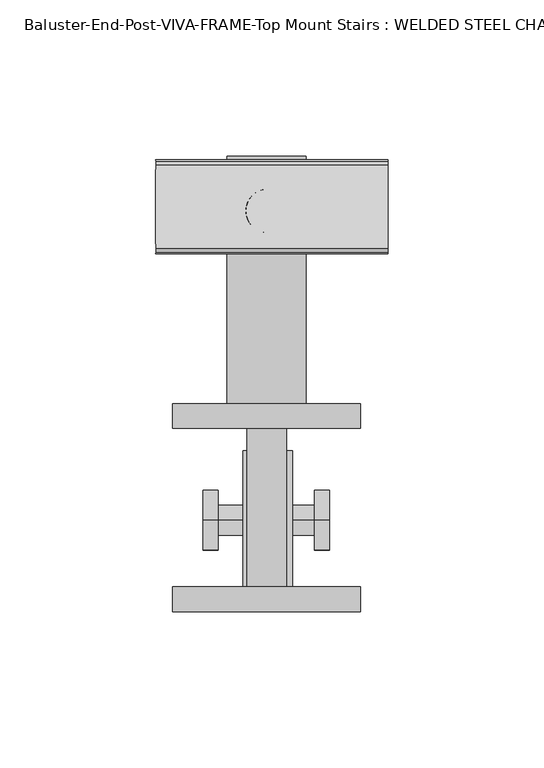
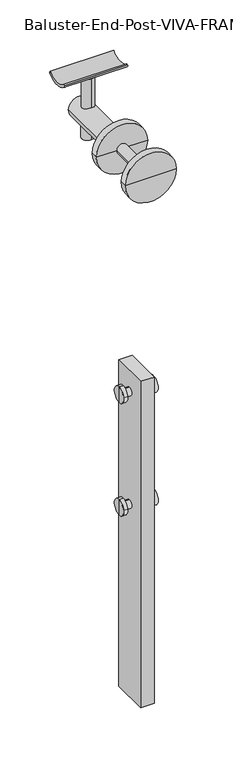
"""IFC4 building model written with IfcOpenShell, lengths in millimetres: proxy geometry, Baluster-End-Post-VIVA-FRAME-Top Mount Stairs : WELDED STEEL CHANNEL_TOP MOUNT FRAME_STAIR."""

from ifc_helpers import new_model, si_unit, point, frame, frame_2d, origin, place, context, project, spatial, polyline, circle_curve, trimmed, segment, composite_curve, outline, extrude, source, transform, mapped, element, save
from ifc_brep_helpers import plane_surface, cylinder_surface, advanced_brep


def baluster_end_post_viva_frame_top_mount_stairs_welded_steel_a77319bc(model_context):
    return source(origin(), model_context, "Body", "SolidModel", [
        advanced_brep(
        [(-30.4813346, -121.9403, -73.6790445), (-6.6688346, -121.9403, -73.6790445), (6.0311654, -121.9403, -73.6790445), (29.8436654, -121.9403, -73.6790445), (-30.4813346, -129.8778, -73.6790445), (29.8436654, -129.8778, -73.6790445), (-30.4813346, -63.2028, -73.6790445), (-13.0188346, -63.2028, -73.6790445), (12.3811654, -63.2028, -73.6790445), (29.8436654, -63.2028, -73.6790445), (-30.4813346, -71.1403, -73.6790445), (29.8436654, -71.1403, -73.6790445), (-0.3188346, -129.8778, -73.6790445), (-13.0188346, 16.1722, -73.6790445), (-0.3188346, 16.1722, -73.6790445), (12.3811654, 16.1722, -73.6790445), (-6.6688346, -71.1403, -73.6790445), (6.0311654, -71.1403, -73.6790445)],
        [
            (0, 1),
            (1, 2, circle_curve(frame((-0.3188346, -121.9403, -73.6790445), z_axis=(0.0, -1.0, 0.0), x_axis=(1.0, 0.0, 0.0)), 6.35)),
            (2, 3),
            (3, 0, circle_curve(frame((-0.3188346, -121.9403, -73.6790445), z_axis=(0.0, 1.0, 0.0), x_axis=(1.0, 0.0, 0.0)), 30.1625)),
            (4, 0),
            (3, 5),
            (5, 4, circle_curve(frame((-0.3188346, -129.8778, -73.6790445), z_axis=(0.0, 1.0, 0.0), x_axis=(1.0, 0.0, 0.0)), 30.1625)),
            (6, 7),
            (7, 8, circle_curve(frame((-0.3188346, -63.2028, -73.6790445), z_axis=(0.0, -1.0, 0.0), x_axis=(1.0, 0.0, 0.0)), 12.7)),
            (8, 9),
            (9, 6, circle_curve(frame((-0.3188346, -63.2028, -73.6790445), z_axis=(0.0, 1.0, 0.0), x_axis=(1.0, 0.0, 0.0)), 30.1625)),
            (10, 6),
            (9, 11),
            (11, 10, circle_curve(frame((-0.3188346, -71.1403, -73.6790445), z_axis=(0.0, 1.0, 0.0), x_axis=(1.0, 0.0, 0.0)), 30.1625)),
            (3, 0, circle_curve(frame((-0.3188346, -121.9403, -73.6790445), z_axis=(0.0, -1.0, 0.0), x_axis=(1.0, 0.0, 0.0)), 30.1625)),
            (4, 5, circle_curve(frame((-0.3188346, -129.8778, -73.6790445), z_axis=(0.0, 1.0, 0.0), x_axis=(1.0, 0.0, 0.0)), 30.1625)),
            (12, 4),
            (5, 12),
            (13, 14),
            (14, 15),
            (15, 13, circle_curve(frame((-0.3188346, 16.1722, -73.6790445), z_axis=(0.0, 1.0, 0.0), x_axis=(1.0, 0.0, 0.0)), 12.7)),
            (13, 15, circle_curve(frame((-0.3188346, 16.1722, -73.6790445), z_axis=(0.0, 1.0, 0.0), x_axis=(1.0, 0.0, 0.0)), 12.7)),
            (7, 13),
            (15, 8),
            (7, 8, circle_curve(frame((-0.3188346, -63.2028, -73.6790445), z_axis=(0.0, 1.0, 0.0), x_axis=(1.0, 0.0, 0.0)), 12.7)),
            (6, 9, circle_curve(frame((-0.3188346, -63.2028, -73.6790445), z_axis=(0.0, 1.0, 0.0), x_axis=(1.0, 0.0, 0.0)), 30.1625)),
            (10, 11, circle_curve(frame((-0.3188346, -71.1403, -73.6790445), z_axis=(0.0, 1.0, 0.0), x_axis=(1.0, 0.0, 0.0)), 30.1625)),
            (16, 10),
            (11, 17),
            (17, 16, circle_curve(frame((-0.3188346, -71.1403, -73.6790445), z_axis=(0.0, 1.0, 0.0), x_axis=(1.0, 0.0, 0.0)), 6.35)),
            (16, 17, circle_curve(frame((-0.3188346, -71.1403, -73.6790445), z_axis=(0.0, 1.0, 0.0), x_axis=(1.0, 0.0, 0.0)), 6.35)),
            (1, 16),
            (17, 2),
            (1, 2, circle_curve(frame((-0.3188346, -121.9403, -73.6790445), z_axis=(0.0, 1.0, 0.0), x_axis=(1.0, 0.0, 0.0)), 6.35)),
        ],
        [
            plane_surface(frame((-0.3188346, -121.9403, -73.6790445), z_axis=(0.0, 1.0, 0.0), x_axis=(1.0, 0.0, 0.0))),
            cylinder_surface(frame((-0.3188346, -1595.1403, -73.6790445), z_axis=(0.0, -1.0, 0.0), x_axis=(1.0, 0.0, 0.0)), 30.1625),
            plane_surface(frame((-0.3188346, -63.2028, -73.6790445), z_axis=(0.0, 1.0, 0.0), x_axis=(1.0, 0.0, 0.0))),
            plane_surface(frame((-0.3188346, -129.8778, -73.6790445), z_axis=(0.0, -1.0, 0.0), x_axis=(1.0, 0.0, 0.0))),
            plane_surface(frame((-0.3188346, 16.1722, -73.6790445), z_axis=(0.0, 1.0, 0.0), x_axis=(1.0, 0.0, 0.0))),
            cylinder_surface(frame((-0.3188346, -1595.1403, -73.6790445), z_axis=(0.0, -1.0, 0.0), x_axis=(1.0, 0.0, 0.0)), 12.7),
            plane_surface(frame((-0.3188346, -71.1403, -73.6790445), z_axis=(0.0, -1.0, 0.0), x_axis=(1.0, 0.0, 0.0))),
            cylinder_surface(frame((-0.3188346, -1595.1403, -73.6790445), z_axis=(0.0, -1.0, 0.0), x_axis=(1.0, 0.0, 0.0)), 6.35),
        ],
        [
            (0, [[1, 2, 3, 4]]),
            (1, [[5, -4, 6, 7]]),
            (2, [[8, 9, 10, 11]]),
            (1, [[12, -11, 13, 14]]),
            (1, [[-6, 15, -5, 16]]),
            (3, [[17, -7, 18]]),
            (3, [[-18, -16, -17]]),
            (4, [[19, 20, 21]]),
            (4, [[-20, -19, 22]]),
            (5, [[23, -21, 24, -9]]),
            (5, [[-24, -22, -23, 25]]),
            (2, [[-10, -25, -8, 26]]),
            (1, [[-13, -26, -12, 27]]),
            (6, [[28, -14, 29, 30]]),
            (6, [[-29, -27, -28, 31]]),
            (7, [[32, -30, 33, -2]]),
            (7, [[-33, -31, -32, 34]]),
            (0, [[-3, -34, -1, -15]]),
        ],
    ),
        extrude(outline(composite_curve([segment(trimmed(circle_curve(frame_2d((0.0, 7.0)), 7.0), [point((0.0, 14.0))], [point((0.0, 0.0))], False, "CARTESIAN"), True, "CONTINUOUS"), segment(trimmed(circle_curve(frame_2d((0.0, 7.0)), 7.0), [point((0.0, 0.0))], [point((0.0, 14.0))], False, "CARTESIAN"), True, "CONTINUOUS")], self_intersect=False)), frame((-0.4484997, -8.4254391, -100.6444351), z_axis=(0.0059036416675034, 0.0, 0.9999825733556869), x_axis=(0.9999825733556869, 0.0, -0.0059036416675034)), (0.0, 0.0, 1.0), 75.97),
        extrude(outline(composite_curve([segment(polyline([(5.2466063, -13.9247916), (4.2292193, -14.9511812)]), True, "CONTINUOUS"), segment(trimmed(circle_curve(frame_2d((3.1638974, -13.8952033)), 1.5), [point((4.2292193, -14.9511812))], [point((2.0329756, -14.8806048))], False, "CARTESIAN"), True, "CONTINUOUS"), segment(trimmed(circle_curve(frame_2d((18.6575251, -0.3952033)), 22.05), [point((2.0329756, -14.8806048))], [point((2.0329756, 14.0901981))], False, "CARTESIAN"), True, "CONTINUOUS"), segment(trimmed(circle_curve(frame_2d((3.1638974, 13.1047967)), 1.5), [point((2.0329756, 14.0901981))], [point((4.2292193, 14.1607745))], False, "CARTESIAN"), True, "CONTINUOUS"), segment(polyline([(4.2292193, 14.1607745), (5.2466063, 13.1343849)]), True, "CONTINUOUS"), segment(trimmed(circle_curve(frame_2d((18.6575251, -0.3952033)), 19.05), [point((5.2466063, 13.1343849))], [point((5.2466063, -13.9247916))], True, "CARTESIAN"), True, "CONTINUOUS")], self_intersect=False)), frame((38.6744355, 0.3017933, -21.2832848), z_axis=(-0.9999997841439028, 0.0, 0.0006570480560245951), x_axis=(0.0006570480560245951, 0.0, 0.9999997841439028)), (0.0, 0.0, 1.0), 74.5229187),
        extrude(outline(polyline([(7.9375, -78.2802567), (7.9375, -122.7302567), (-7.9375, -122.7302567), (-7.9375, -78.2802567), (7.9375, -78.2802567)])), frame((0.0, 0.0, -736.0856445), z_axis=(0.0, 0.0, 1.0), x_axis=(1.0, 0.0, 0.0)), (0.0, 0.0, 1.0), 406.4),
        advanced_brep(
        [(-20.6502, -100.5078, -504.8504), (-20.6502, -100.5078, -485.7496), (-20.6502, -100.5078, -495.3), (-15.875, -100.5078, -504.8504), (-15.875, -100.5078, -485.7496), (-15.875, -100.5078, -500.0752), (-15.875, -100.5078, -490.5248), (15.0622, -100.5078, -500.0752), (15.0622, -100.5078, -490.5248), (15.0622, -100.5078, -504.8504), (15.0622, -100.5078, -485.7496), (19.8374, -100.5078, -504.8504), (19.8374, -100.5078, -485.7496), (19.8374, -100.5078, -495.3)],
        [
            (0, 1, circle_curve(frame((-20.6502, -100.5078, -495.3), z_axis=(-1.0, 0.0, 0.0), x_axis=(0.0, 0.0, 1.0)), 9.5504)),
            (1, 2),
            (2, 0),
            (1, 0, circle_curve(frame((-20.6502, -100.5078, -495.3), z_axis=(-1.0, 0.0, 0.0), x_axis=(0.0, 0.0, 1.0)), 9.5504)),
            (3, 4, circle_curve(frame((-15.875, -100.5078, -495.3), z_axis=(-1.0, 0.0, 0.0), x_axis=(0.0, 0.0, 1.0)), 9.5504)),
            (4, 1),
            (0, 3),
            (4, 3, circle_curve(frame((-15.875, -100.5078, -495.3), z_axis=(-1.0, 0.0, 0.0), x_axis=(0.0, 0.0, 1.0)), 9.5504)),
            (5, 6, circle_curve(frame((-15.875, -100.5078, -495.3), z_axis=(-1.0, 0.0, 0.0), x_axis=(0.0, 0.0, 1.0)), 4.7752)),
            (6, 4),
            (3, 5),
            (6, 5, circle_curve(frame((-15.875, -100.5078, -495.3), z_axis=(-1.0, 0.0, 0.0), x_axis=(0.0, 0.0, 1.0)), 4.7752)),
            (7, 8, circle_curve(frame((15.0622, -100.5078, -495.3), z_axis=(-1.0, 0.0, 0.0), x_axis=(0.0, 0.0, 1.0)), 4.7752)),
            (8, 6),
            (5, 7),
            (8, 7, circle_curve(frame((15.0622, -100.5078, -495.3), z_axis=(-1.0, 0.0, 0.0), x_axis=(0.0, 0.0, 1.0)), 4.7752)),
            (9, 10, circle_curve(frame((15.0622, -100.5078, -495.3), z_axis=(-1.0, 0.0, 0.0), x_axis=(0.0, 0.0, 1.0)), 9.5504)),
            (10, 8),
            (7, 9),
            (10, 9, circle_curve(frame((15.0622, -100.5078, -495.3), z_axis=(-1.0, 0.0, 0.0), x_axis=(0.0, 0.0, 1.0)), 9.5504)),
            (11, 12, circle_curve(frame((19.8374, -100.5078, -495.3), z_axis=(-1.0, 0.0, 0.0), x_axis=(0.0, 0.0, 1.0)), 9.5504)),
            (12, 10),
            (9, 11),
            (12, 11, circle_curve(frame((19.8374, -100.5078, -495.3), z_axis=(-1.0, 0.0, 0.0), x_axis=(0.0, 0.0, 1.0)), 9.5504)),
            (13, 12),
            (11, 13),
        ],
        [
            plane_surface(frame((-20.6502, -100.5078, -495.3), z_axis=(-1.0, 0.0, 0.0), x_axis=(0.0, 0.0, 1.0))),
            cylinder_surface(frame((-3412.2305571, -100.5078, -495.3), z_axis=(1.0, 0.0, 0.0), x_axis=(0.0, 0.0, 1.0)), 9.5504),
            plane_surface(frame((-15.875, -100.5078, -495.3), z_axis=(1.0, 0.0, 0.0), x_axis=(0.0, 0.0, 1.0))),
            cylinder_surface(frame((-3412.2305571, -100.5078, -495.3), z_axis=(1.0, 0.0, 0.0), x_axis=(0.0, 0.0, 1.0)), 4.7752),
            plane_surface(frame((15.0622, -100.5078, -495.3), z_axis=(-1.0, 0.0, 0.0), x_axis=(0.0, 0.0, 1.0))),
            plane_surface(frame((19.8374, -100.5078, -495.3), z_axis=(1.0, 0.0, 0.0), x_axis=(0.0, 0.0, 1.0))),
        ],
        [
            (0, [[1, 2, 3]]),
            (0, [[4, -3, -2]]),
            (1, [[5, 6, -1, 7]]),
            (1, [[8, -7, -4, -6]]),
            (2, [[9, 10, -5, 11]]),
            (2, [[12, -11, -8, -10]]),
            (3, [[13, 14, -9, 15]]),
            (3, [[16, -15, -12, -14]]),
            (4, [[17, 18, -13, 19]]),
            (4, [[20, -19, -16, -18]]),
            (1, [[21, 22, -17, 23]]),
            (1, [[24, -23, -20, -22]]),
            (5, [[25, -21, 26]]),
            (5, [[-26, -24, -25]]),
        ],
    ),
        advanced_brep(
        [(-20.6502, -100.5078, -364.6360445), (-20.6502, -100.5078, -345.5352445), (-20.6502, -100.5078, -355.0856445), (-15.875, -100.5078, -364.6360445), (-15.875, -100.5078, -345.5352445), (-15.875, -100.5078, -359.8608445), (-15.875, -100.5078, -350.3104445), (15.0622, -100.5078, -359.8608445), (15.0622, -100.5078, -350.3104445), (15.0622, -100.5078, -364.6360445), (15.0622, -100.5078, -345.5352445), (19.8374, -100.5078, -364.6360445), (19.8374, -100.5078, -345.5352445), (19.8374, -100.5078, -355.0856445)],
        [
            (0, 1, circle_curve(frame((-20.6502, -100.5078, -355.0856445), z_axis=(-1.0, 0.0, 0.0), x_axis=(0.0, 0.0, 1.0)), 9.5504)),
            (1, 2),
            (2, 0),
            (1, 0, circle_curve(frame((-20.6502, -100.5078, -355.0856445), z_axis=(-1.0, 0.0, 0.0), x_axis=(0.0, 0.0, 1.0)), 9.5504)),
            (3, 4, circle_curve(frame((-15.875, -100.5078, -355.0856445), z_axis=(-1.0, 0.0, 0.0), x_axis=(0.0, 0.0, 1.0)), 9.5504)),
            (4, 1),
            (0, 3),
            (4, 3, circle_curve(frame((-15.875, -100.5078, -355.0856445), z_axis=(-1.0, 0.0, 0.0), x_axis=(0.0, 0.0, 1.0)), 9.5504)),
            (5, 6, circle_curve(frame((-15.875, -100.5078, -355.0856445), z_axis=(-1.0, 0.0, 0.0), x_axis=(0.0, 0.0, 1.0)), 4.7752)),
            (6, 4),
            (3, 5),
            (6, 5, circle_curve(frame((-15.875, -100.5078, -355.0856445), z_axis=(-1.0, 0.0, 0.0), x_axis=(0.0, 0.0, 1.0)), 4.7752)),
            (7, 8, circle_curve(frame((15.0622, -100.5078, -355.0856445), z_axis=(-1.0, 0.0, 0.0), x_axis=(0.0, 0.0, 1.0)), 4.7752)),
            (8, 6),
            (5, 7),
            (8, 7, circle_curve(frame((15.0622, -100.5078, -355.0856445), z_axis=(-1.0, 0.0, 0.0), x_axis=(0.0, 0.0, 1.0)), 4.7752)),
            (9, 10, circle_curve(frame((15.0622, -100.5078, -355.0856445), z_axis=(-1.0, 0.0, 0.0), x_axis=(0.0, 0.0, 1.0)), 9.5504)),
            (10, 8),
            (7, 9),
            (10, 9, circle_curve(frame((15.0622, -100.5078, -355.0856445), z_axis=(-1.0, 0.0, 0.0), x_axis=(0.0, 0.0, 1.0)), 9.5504)),
            (11, 12, circle_curve(frame((19.8374, -100.5078, -355.0856445), z_axis=(-1.0, 0.0, 0.0), x_axis=(0.0, 0.0, 1.0)), 9.5504)),
            (12, 10),
            (9, 11),
            (12, 11, circle_curve(frame((19.8374, -100.5078, -355.0856445), z_axis=(-1.0, 0.0, 0.0), x_axis=(0.0, 0.0, 1.0)), 9.5504)),
            (13, 12),
            (11, 13),
        ],
        [
            plane_surface(frame((-20.6502, -100.5078, -355.0856445), z_axis=(-1.0, 0.0, 0.0), x_axis=(0.0, 0.0, 1.0))),
            cylinder_surface(frame((-3412.2305571, -100.5078, -355.0856445), z_axis=(1.0, 0.0, 0.0), x_axis=(0.0, 0.0, 1.0)), 9.5504),
            plane_surface(frame((-15.875, -100.5078, -355.0856445), z_axis=(1.0, 0.0, 0.0), x_axis=(0.0, 0.0, 1.0))),
            cylinder_surface(frame((-3412.2305571, -100.5078, -355.0856445), z_axis=(1.0, 0.0, 0.0), x_axis=(0.0, 0.0, 1.0)), 4.7752),
            plane_surface(frame((15.0622, -100.5078, -355.0856445), z_axis=(-1.0, 0.0, 0.0), x_axis=(0.0, 0.0, 1.0))),
            plane_surface(frame((19.8374, -100.5078, -355.0856445), z_axis=(1.0, 0.0, 0.0), x_axis=(0.0, 0.0, 1.0))),
        ],
        [
            (0, [[1, 2, 3]]),
            (0, [[4, -3, -2]]),
            (1, [[5, 6, -1, 7]]),
            (1, [[8, -7, -4, -6]]),
            (2, [[9, 10, -5, 11]]),
            (2, [[12, -11, -8, -10]]),
            (3, [[13, 14, -9, 15]]),
            (3, [[16, -15, -12, -14]]),
            (4, [[17, 18, -13, 19]]),
            (4, [[20, -19, -16, -18]]),
            (1, [[21, 22, -17, 23]]),
            (1, [[24, -23, -20, -22]]),
            (5, [[25, -21, 26]]),
            (5, [[-26, -24, -25]]),
        ],
    ),
    ])


if __name__ == "__main__":
    model = new_model("IFC4")
    model_context = context("Model", 3, world=origin())
    ifc_project = project(units=[si_unit("LENGTHUNIT", "METRE", prefix="MILLI")], contexts=[model_context])
    site = spatial("IfcSite", under=ifc_project)
    building = spatial("IfcBuilding", under=site)
    placement = place(None, origin())
    baluster_end_post_viva_frame_top_mount_stairs_welded_steel_shape = baluster_end_post_viva_frame_top_mount_stairs_welded_steel_a77319bc(model_context)
    element("IfcBuildingElementProxy", 1, Name="Baluster-End-Post-VIVA-FRAME-Top Mount Stairs : WELDED STEEL CHANNEL_TOP MOUNT FRAME_STAIR", ObjectType="Baluster-End-Post-VIVA-FRAME-Top Mount Stairs : WELDED STEEL CHANNEL_TOP MOUNT FRAME_STAIR", at=placement, inside=building, context=model_context, shape_type="MappedRepresentation", body=[
        mapped(baluster_end_post_viva_frame_top_mount_stairs_welded_steel_shape, transform((0.0, 0.0, 0.0), x_axis=(1.0, 0.0, 0.0), y_axis=(0.0, 1.0, 0.0), z_axis=(0.0, 0.0, 1.0))),
    ])
    save(model, "model.ifc")
